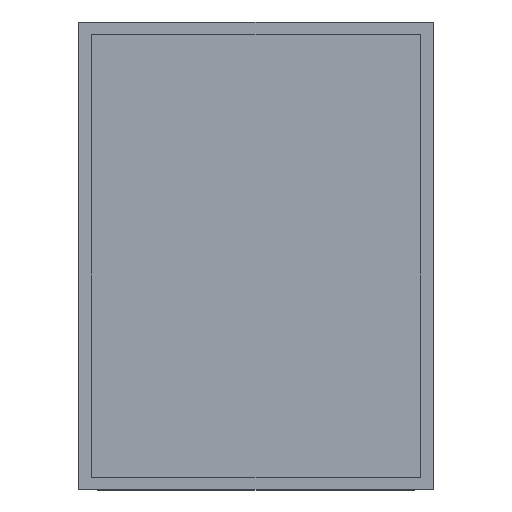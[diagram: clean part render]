
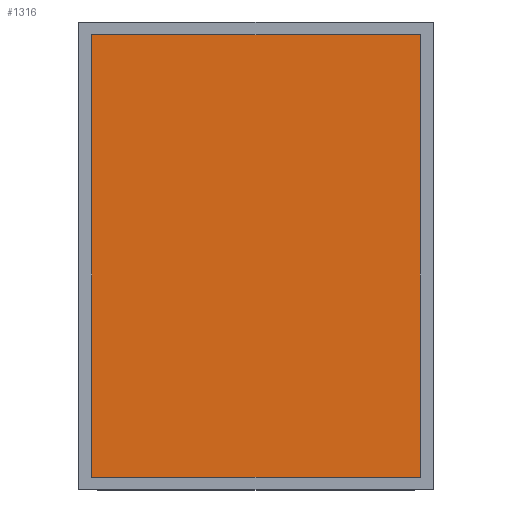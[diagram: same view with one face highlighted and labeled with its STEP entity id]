
A CAD part, top view. The second image highlights one B-rep face of the part: STEP entity #1316.
In plain terms, the highlighted planar face has unit normal (0, 0, 1).
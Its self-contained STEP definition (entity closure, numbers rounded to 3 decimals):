
#745 = PLANE('',#746);
#746 = AXIS2_PLACEMENT_3D('',#747,#748,#749);
#747 = CARTESIAN_POINT('',(26.,-41.,2.8));
#748 = DIRECTION('',(1.,0.,0.));
#749 = DIRECTION('',(0.,0.,1.));
#773 = PLANE('',#774);
#774 = AXIS2_PLACEMENT_3D('',#775,#776,#777);
#775 = CARTESIAN_POINT('',(-26.,-39.,2.8));
#776 = DIRECTION('',(0.,1.,0.));
#777 = DIRECTION('',(0.,-0.,1.));
#801 = PLANE('',#802);
#802 = AXIS2_PLACEMENT_3D('',#803,#804,#805);
#803 = CARTESIAN_POINT('',(-26.,-41.,2.8));
#804 = DIRECTION('',(1.,0.,0.));
#805 = DIRECTION('',(0.,0.,1.));
#827 = PLANE('',#828);
#828 = AXIS2_PLACEMENT_3D('',#829,#830,#831);
#829 = CARTESIAN_POINT('',(-26.,31.,2.8));
#830 = DIRECTION('',(0.,1.,0.));
#831 = DIRECTION('',(0.,-0.,1.));
#1109 = VERTEX_POINT('',#1110);
#1110 = CARTESIAN_POINT('',(26.,-39.,2.8));
#1131 = EDGE_CURVE('',#1109,#1132,#1134,.T.);
#1132 = VERTEX_POINT('',#1133);
#1133 = CARTESIAN_POINT('',(26.,31.,2.8));
#1134 = SURFACE_CURVE('',#1135,(#1139,#1146),.PCURVE_S1.);
#1135 = LINE('',#1136,#1137);
#1136 = CARTESIAN_POINT('',(26.,-41.,2.8));
#1137 = VECTOR('',#1138,1.);
#1138 = DIRECTION('',(0.,1.,0.));
#1139 = PCURVE('',#745,#1140);
#1140 = DEFINITIONAL_REPRESENTATION('',(#1141),#1145);
#1141 = LINE('',#1142,#1143);
#1142 = CARTESIAN_POINT('',(0.,0.));
#1143 = VECTOR('',#1144,1.);
#1144 = DIRECTION('',(0.,-1.));
#1145 = ( GEOMETRIC_REPRESENTATION_CONTEXT(2) 
PARAMETRIC_REPRESENTATION_CONTEXT() REPRESENTATION_CONTEXT('2D SPACE',''
  ) );
#1146 = PCURVE('',#1147,#1152);
#1147 = PLANE('',#1148);
#1148 = AXIS2_PLACEMENT_3D('',#1149,#1150,#1151);
#1149 = CARTESIAN_POINT('',(-28.,-41.,2.8));
#1150 = DIRECTION('',(0.,0.,1.));
#1151 = DIRECTION('',(1.,0.,-0.));
#1152 = DEFINITIONAL_REPRESENTATION('',(#1153),#1157);
#1153 = LINE('',#1154,#1155);
#1154 = CARTESIAN_POINT('',(54.,0.));
#1155 = VECTOR('',#1156,1.);
#1156 = DIRECTION('',(0.,1.));
#1157 = ( GEOMETRIC_REPRESENTATION_CONTEXT(2) 
PARAMETRIC_REPRESENTATION_CONTEXT() REPRESENTATION_CONTEXT('2D SPACE',''
  ) );
#1183 = EDGE_CURVE('',#1184,#1109,#1186,.T.);
#1184 = VERTEX_POINT('',#1185);
#1185 = CARTESIAN_POINT('',(-26.,-39.,2.8));
#1186 = SURFACE_CURVE('',#1187,(#1191,#1198),.PCURVE_S1.);
#1187 = LINE('',#1188,#1189);
#1188 = CARTESIAN_POINT('',(-26.,-39.,2.8));
#1189 = VECTOR('',#1190,1.);
#1190 = DIRECTION('',(1.,0.,0.));
#1191 = PCURVE('',#773,#1192);
#1192 = DEFINITIONAL_REPRESENTATION('',(#1193),#1197);
#1193 = LINE('',#1194,#1195);
#1194 = CARTESIAN_POINT('',(0.,0.));
#1195 = VECTOR('',#1196,1.);
#1196 = DIRECTION('',(0.,1.));
#1197 = ( GEOMETRIC_REPRESENTATION_CONTEXT(2) 
PARAMETRIC_REPRESENTATION_CONTEXT() REPRESENTATION_CONTEXT('2D SPACE',''
  ) );
#1198 = PCURVE('',#1147,#1199);
#1199 = DEFINITIONAL_REPRESENTATION('',(#1200),#1204);
#1200 = LINE('',#1201,#1202);
#1201 = CARTESIAN_POINT('',(2.,2.));
#1202 = VECTOR('',#1203,1.);
#1203 = DIRECTION('',(1.,0.));
#1204 = ( GEOMETRIC_REPRESENTATION_CONTEXT(2) 
PARAMETRIC_REPRESENTATION_CONTEXT() REPRESENTATION_CONTEXT('2D SPACE',''
  ) );
#1234 = EDGE_CURVE('',#1184,#1235,#1237,.T.);
#1235 = VERTEX_POINT('',#1236);
#1236 = CARTESIAN_POINT('',(-26.,31.,2.8));
#1237 = SURFACE_CURVE('',#1238,(#1242,#1249),.PCURVE_S1.);
#1238 = LINE('',#1239,#1240);
#1239 = CARTESIAN_POINT('',(-26.,-41.,2.8));
#1240 = VECTOR('',#1241,1.);
#1241 = DIRECTION('',(0.,1.,0.));
#1242 = PCURVE('',#801,#1243);
#1243 = DEFINITIONAL_REPRESENTATION('',(#1244),#1248);
#1244 = LINE('',#1245,#1246);
#1245 = CARTESIAN_POINT('',(0.,0.));
#1246 = VECTOR('',#1247,1.);
#1247 = DIRECTION('',(0.,-1.));
#1248 = ( GEOMETRIC_REPRESENTATION_CONTEXT(2) 
PARAMETRIC_REPRESENTATION_CONTEXT() REPRESENTATION_CONTEXT('2D SPACE',''
  ) );
#1249 = PCURVE('',#1147,#1250);
#1250 = DEFINITIONAL_REPRESENTATION('',(#1251),#1255);
#1251 = LINE('',#1252,#1253);
#1252 = CARTESIAN_POINT('',(2.,0.));
#1253 = VECTOR('',#1254,1.);
#1254 = DIRECTION('',(0.,1.));
#1255 = ( GEOMETRIC_REPRESENTATION_CONTEXT(2) 
PARAMETRIC_REPRESENTATION_CONTEXT() REPRESENTATION_CONTEXT('2D SPACE',''
  ) );
#1293 = EDGE_CURVE('',#1235,#1132,#1294,.T.);
#1294 = SURFACE_CURVE('',#1295,(#1299,#1306),.PCURVE_S1.);
#1295 = LINE('',#1296,#1297);
#1296 = CARTESIAN_POINT('',(-26.,31.,2.8));
#1297 = VECTOR('',#1298,1.);
#1298 = DIRECTION('',(1.,0.,0.));
#1299 = PCURVE('',#827,#1300);
#1300 = DEFINITIONAL_REPRESENTATION('',(#1301),#1305);
#1301 = LINE('',#1302,#1303);
#1302 = CARTESIAN_POINT('',(0.,0.));
#1303 = VECTOR('',#1304,1.);
#1304 = DIRECTION('',(0.,1.));
#1305 = ( GEOMETRIC_REPRESENTATION_CONTEXT(2) 
PARAMETRIC_REPRESENTATION_CONTEXT() REPRESENTATION_CONTEXT('2D SPACE',''
  ) );
#1306 = PCURVE('',#1147,#1307);
#1307 = DEFINITIONAL_REPRESENTATION('',(#1308),#1312);
#1308 = LINE('',#1309,#1310);
#1309 = CARTESIAN_POINT('',(2.,72.));
#1310 = VECTOR('',#1311,1.);
#1311 = DIRECTION('',(1.,0.));
#1312 = ( GEOMETRIC_REPRESENTATION_CONTEXT(2) 
PARAMETRIC_REPRESENTATION_CONTEXT() REPRESENTATION_CONTEXT('2D SPACE',''
  ) );
#1316 = ADVANCED_FACE('',(#1317),#1147,.T.);
#1317 = FACE_BOUND('',#1318,.T.);
#1318 = EDGE_LOOP('',(#1319,#1320,#1321,#1322));
#1319 = ORIENTED_EDGE('',*,*,#1234,.F.);
#1320 = ORIENTED_EDGE('',*,*,#1183,.T.);
#1321 = ORIENTED_EDGE('',*,*,#1131,.T.);
#1322 = ORIENTED_EDGE('',*,*,#1293,.F.);
